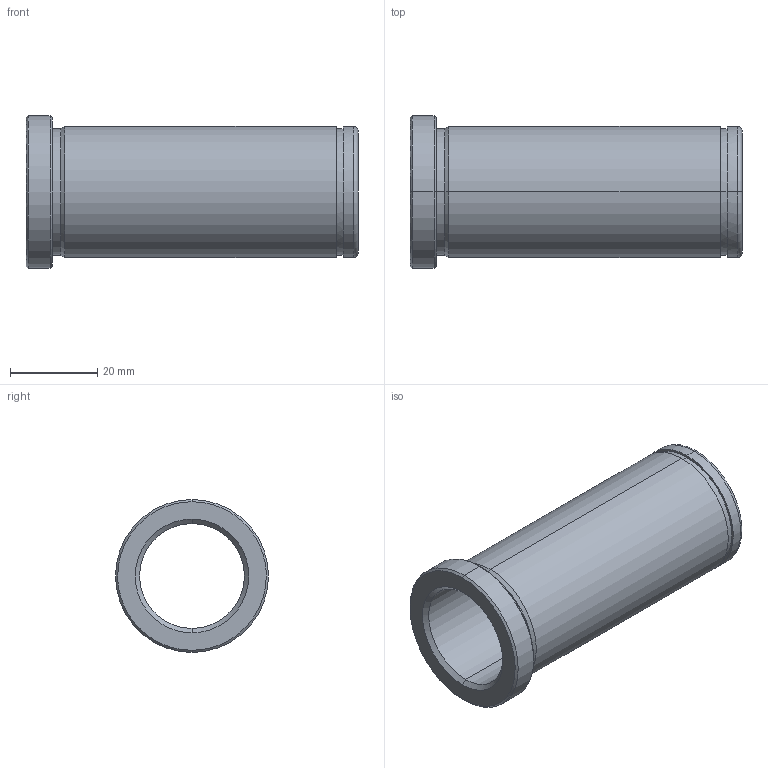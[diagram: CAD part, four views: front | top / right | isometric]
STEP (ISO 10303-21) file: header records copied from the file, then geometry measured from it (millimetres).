
FILE_DESCRIPTION(('CATIA V5 STEP Exchange'),'2;1');
FILE_NAME('C:\Users\Utente\Desktop\IO LAVORO\3D X SITO CF\X SITO\PLASTICA\553\553-24X76.stp','2021-05-25T18:20:00+00:00',('none'),('none'),'CATIA Version 5 Release 20 GA (IN-10)','CATIA V5 STEP AP203','none');
FILE_SCHEMA(('CONFIG_CONTROL_DESIGN'));
Length unit declared in the file: millimetre
Products named in the file (1): 553-24X76
Bounding box: 76 x 35 x 35 mm (x, y, z)
Volume: 20560.8 mm3; surface area: 13949.2 mm2
Topology: 1 solids, 1 shells, 29 faces, 92 edges, 68 vertices
Faces by surface type: cylinder 12, cone 8, plane 5, torus 4
Entity records: 1222 total; most frequent: CARTESIAN_POINT 368, ORIENTED_EDGE 184, DIRECTION 136, EDGE_CURVE 92, AXIS2_PLACEMENT_3D 88, VERTEX_POINT 68, CIRCLE 58, EDGE_LOOP 34
